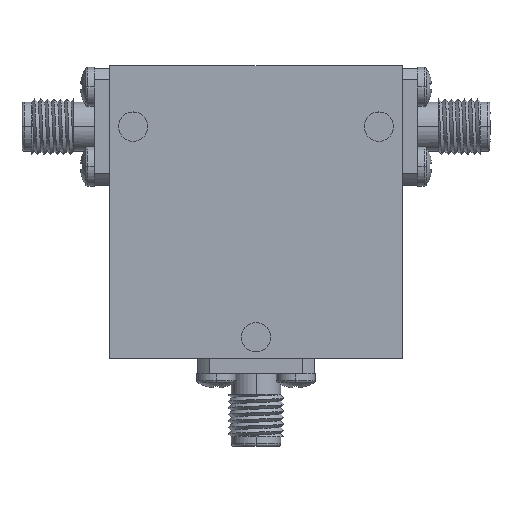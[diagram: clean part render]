
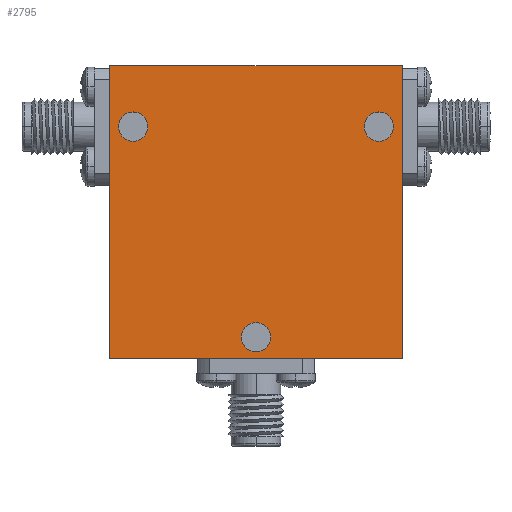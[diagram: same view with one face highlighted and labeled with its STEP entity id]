
A CAD part, top view. The second image highlights one B-rep face of the part: STEP entity #2795.
In plain terms, the highlighted planar face has unit normal (0, 0, 1) as drawn and (0, 0, -1) by its records, which use the part's own axes.
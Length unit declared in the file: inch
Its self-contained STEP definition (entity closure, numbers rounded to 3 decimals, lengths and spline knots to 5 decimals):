
#66 = VERTEX_POINT ( 'NONE', #2008 ) ;
#88 = DIRECTION ( 'NONE',  ( -1., 0., 0. ) ) ;
#153 = CIRCLE ( 'NONE', #3702, 0.0625 ) ;
#204 = ORIENTED_EDGE ( 'NONE', *, *, #2048, .T. ) ;
#278 = EDGE_LOOP ( 'NONE', ( #760, #3791, #2033, #3004 ) ) ;
#353 = ORIENTED_EDGE ( 'NONE', *, *, #957, .T. ) ;
#441 = FACE_OUTER_BOUND ( 'NONE', #278, .T. ) ;
#483 = FACE_BOUND ( 'NONE', #3416, .T. ) ;
#554 = AXIS2_PLACEMENT_3D ( 'NONE', #879, #862, #3526 ) ;
#598 = CIRCLE ( 'NONE', #1656, 0.0625 ) ;
#620 = CARTESIAN_POINT ( 'NONE',  ( 0., -0.535, -0.365 ) ) ;
#653 = CARTESIAN_POINT ( 'NONE',  ( 0., 0., -0.365 ) ) ;
#668 = ORIENTED_EDGE ( 'NONE', *, *, #2494, .T. ) ;
#698 = CARTESIAN_POINT ( 'NONE',  ( -0.4625, 0.365, -0.365 ) ) ;
#701 = EDGE_CURVE ( 'NONE', #1177, #3366, #3299, .T. ) ;
#760 = ORIENTED_EDGE ( 'NONE', *, *, #3523, .F. ) ;
#857 = AXIS2_PLACEMENT_3D ( 'NONE', #1256, #3700, #1000 ) ;
#862 = DIRECTION ( 'NONE',  ( 0., 0., 1. ) ) ;
#866 = CARTESIAN_POINT ( 'NONE',  ( -0.5875, 0.365, -0.365 ) ) ;
#879 = CARTESIAN_POINT ( 'NONE',  ( -0.525, 0.365, -0.365 ) ) ;
#957 = EDGE_CURVE ( 'NONE', #1594, #1131, #153, .T. ) ;
#972 = CARTESIAN_POINT ( 'NONE',  ( 0.525, 0.365, -0.365 ) ) ;
#999 = PLANE ( 'NONE',  #1835 ) ;
#1000 = DIRECTION ( 'NONE',  ( 1., 0., 0. ) ) ;
#1030 = DIRECTION ( 'NONE',  ( 0., 0., 1. ) ) ;
#1047 = EDGE_LOOP ( 'NONE', ( #668, #1725 ) ) ;
#1062 = AXIS2_PLACEMENT_3D ( 'NONE', #972, #1030, #1266 ) ;
#1065 = LINE ( 'NONE', #3065, #2362 ) ;
#1127 = CARTESIAN_POINT ( 'NONE',  ( -0.0625, -0.535, -0.365 ) ) ;
#1131 = VERTEX_POINT ( 'NONE', #1127 ) ;
#1169 = CARTESIAN_POINT ( 'NONE',  ( -0.625, -0.625, -0.365 ) ) ;
#1177 = VERTEX_POINT ( 'NONE', #2277 ) ;
#1200 = VECTOR ( 'NONE', #88, 39.37008 ) ;
#1256 = CARTESIAN_POINT ( 'NONE',  ( -0.525, 0.365, -0.365 ) ) ;
#1266 = DIRECTION ( 'NONE',  ( 1., 0., 0. ) ) ;
#1303 = EDGE_CURVE ( 'NONE', #2128, #1598, #3013, .T. ) ;
#1433 = VERTEX_POINT ( 'NONE', #698 ) ;
#1463 = DIRECTION ( 'NONE',  ( 1., 0., 0. ) ) ;
#1594 = VERTEX_POINT ( 'NONE', #3052 ) ;
#1598 = VERTEX_POINT ( 'NONE', #3667 ) ;
#1630 = FACE_BOUND ( 'NONE', #3785, .T. ) ;
#1652 = EDGE_CURVE ( 'NONE', #3366, #2128, #1065, .T. ) ;
#1656 = AXIS2_PLACEMENT_3D ( 'NONE', #2347, #2946, #1827 ) ;
#1676 = CARTESIAN_POINT ( 'NONE',  ( 0.625, 0.625, -0.365 ) ) ;
#1725 = ORIENTED_EDGE ( 'NONE', *, *, #1932, .T. ) ;
#1765 = CIRCLE ( 'NONE', #857, 0.0625 ) ;
#1787 = VECTOR ( 'NONE', #1463, 39.37008 ) ;
#1812 = CIRCLE ( 'NONE', #2661, 0.0625 ) ;
#1827 = DIRECTION ( 'NONE',  ( 1., 0., 0. ) ) ;
#1835 = AXIS2_PLACEMENT_3D ( 'NONE', #653, #3324, #2107 ) ;
#1914 = CARTESIAN_POINT ( 'NONE',  ( -0.625, 0.625, -0.365 ) ) ;
#1932 = EDGE_CURVE ( 'NONE', #3570, #1433, #3477, .T. ) ;
#1969 = ORIENTED_EDGE ( 'NONE', *, *, #2994, .T. ) ;
#2008 = CARTESIAN_POINT ( 'NONE',  ( 0.5875, 0.365, -0.365 ) ) ;
#2033 = ORIENTED_EDGE ( 'NONE', *, *, #1652, .F. ) ;
#2048 = EDGE_CURVE ( 'NONE', #1131, #1594, #598, .T. ) ;
#2090 = DIRECTION ( 'NONE',  ( 1., 0., 0. ) ) ;
#2093 = VERTEX_POINT ( 'NONE', #2691 ) ;
#2107 = DIRECTION ( 'NONE',  ( 1., 0., 0. ) ) ;
#2128 = VERTEX_POINT ( 'NONE', #2963 ) ;
#2186 = DIRECTION ( 'NONE',  ( 1., 0., 0. ) ) ;
#2221 = EDGE_CURVE ( 'NONE', #66, #2093, #3068, .T. ) ;
#2277 = CARTESIAN_POINT ( 'NONE',  ( 0.625, 0.625, -0.365 ) ) ;
#2347 = CARTESIAN_POINT ( 'NONE',  ( 0., -0.535, -0.365 ) ) ;
#2362 = VECTOR ( 'NONE', #2793, 39.37008 ) ;
#2386 = ORIENTED_EDGE ( 'NONE', *, *, #2221, .T. ) ;
#2494 = EDGE_CURVE ( 'NONE', #1433, #3570, #1765, .T. ) ;
#2661 = AXIS2_PLACEMENT_3D ( 'NONE', #3073, #3355, #2186 ) ;
#2691 = CARTESIAN_POINT ( 'NONE',  ( 0.4625, 0.365, -0.365 ) ) ;
#2761 = VECTOR ( 'NONE', #3773, 39.37008 ) ;
#2769 = FACE_BOUND ( 'NONE', #1047, .T. ) ;
#2793 = DIRECTION ( 'NONE',  ( 0., -1., 0. ) ) ;
#2795 = ADVANCED_FACE ( 'NONE', ( #1630, #483, #2769, #441 ), #999, .F. ) ;
#2916 = CARTESIAN_POINT ( 'NONE',  ( -0.625, 0.625, -0.365 ) ) ;
#2946 = DIRECTION ( 'NONE',  ( 0., 0., 1. ) ) ;
#2963 = CARTESIAN_POINT ( 'NONE',  ( -0.625, -0.625, -0.365 ) ) ;
#2994 = EDGE_CURVE ( 'NONE', #2093, #66, #1812, .T. ) ;
#3004 = ORIENTED_EDGE ( 'NONE', *, *, #701, .F. ) ;
#3013 = LINE ( 'NONE', #1169, #1787 ) ;
#3052 = CARTESIAN_POINT ( 'NONE',  ( 0.0625, -0.535, -0.365 ) ) ;
#3065 = CARTESIAN_POINT ( 'NONE',  ( -0.625, 0.625, -0.365 ) ) ;
#3068 = CIRCLE ( 'NONE', #1062, 0.0625 ) ;
#3073 = CARTESIAN_POINT ( 'NONE',  ( 0.525, 0.365, -0.365 ) ) ;
#3256 = DIRECTION ( 'NONE',  ( 0., 0., 1. ) ) ;
#3299 = LINE ( 'NONE', #2916, #1200 ) ;
#3324 = DIRECTION ( 'NONE',  ( 0., 0., 1. ) ) ;
#3355 = DIRECTION ( 'NONE',  ( 0., 0., 1. ) ) ;
#3366 = VERTEX_POINT ( 'NONE', #1914 ) ;
#3416 = EDGE_LOOP ( 'NONE', ( #353, #204 ) ) ;
#3418 = LINE ( 'NONE', #1676, #2761 ) ;
#3477 = CIRCLE ( 'NONE', #554, 0.0625 ) ;
#3523 = EDGE_CURVE ( 'NONE', #1598, #1177, #3418, .T. ) ;
#3526 = DIRECTION ( 'NONE',  ( 1., 0., 0. ) ) ;
#3570 = VERTEX_POINT ( 'NONE', #866 ) ;
#3667 = CARTESIAN_POINT ( 'NONE',  ( 0.625, -0.625, -0.365 ) ) ;
#3700 = DIRECTION ( 'NONE',  ( 0., 0., 1. ) ) ;
#3702 = AXIS2_PLACEMENT_3D ( 'NONE', #620, #3256, #2090 ) ;
#3773 = DIRECTION ( 'NONE',  ( 0., 1., 0. ) ) ;
#3785 = EDGE_LOOP ( 'NONE', ( #2386, #1969 ) ) ;
#3791 = ORIENTED_EDGE ( 'NONE', *, *, #1303, .F. ) ;
